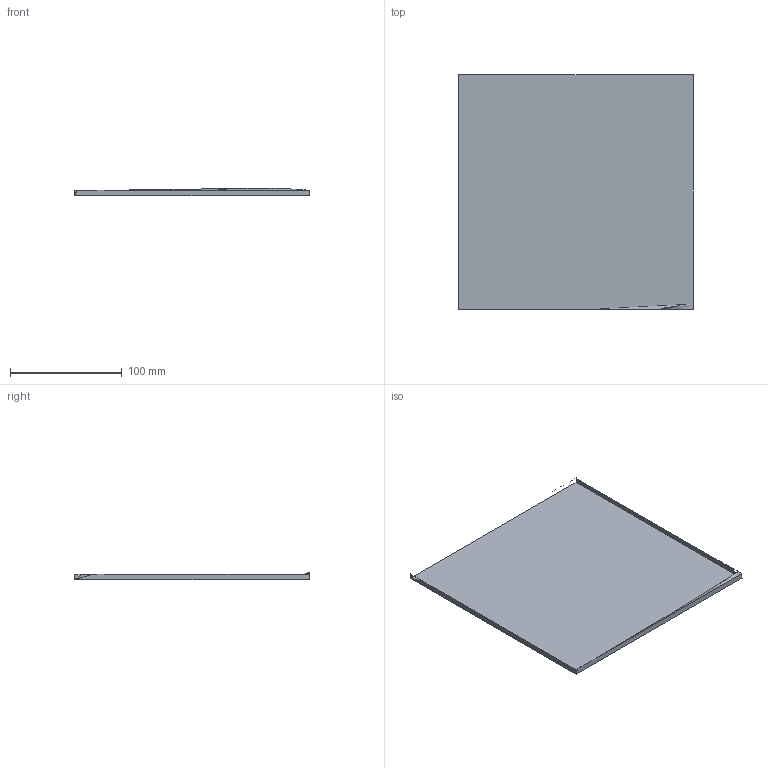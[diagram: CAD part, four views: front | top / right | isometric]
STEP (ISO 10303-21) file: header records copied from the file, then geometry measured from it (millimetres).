
FILE_DESCRIPTION(('STEP AP214'),'1');
FILE_NAME('tmp0.stp','2023-03-04T10:17:13',(' '),(' '),'Spatial InterOp 3D',' ',' ');
FILE_SCHEMA(('automotive_design'));
Length unit declared in the file: millimetre
Products named in the file (50): 1; 2; 3; 4; 5; 6; 7; 8; 9; 10; 11; 12; 13; 14; 15; 16; 17; 18; 19; 20; 21; 22; 23; 24; 25; 26; 27; 28; 29; 30; 31; 32; 33; 34; 35; 36; 37; 38; 39; 40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
Bounding box: 210 x 210 x 6.93 mm (x, y, z)
Surface area: 97382.1 mm2 (no closed solid volume)
Topology: 0 solids, 54 shells, 54 faces, 316 edges, 242 vertices
Faces by surface type: plane 29, bspline 25
Entity records: 21847 total; most frequent: CARTESIAN_POINT 18663, ORIENTED_EDGE 264, EDGE_CURVE 264, VERTEX_POINT 264, B_SPLINE_CURVE_WITH_KNOTS 220, DIRECTION 202, STYLED_ITEM 104, PRESENTATION_STYLE_ASSIGNMENT 104
